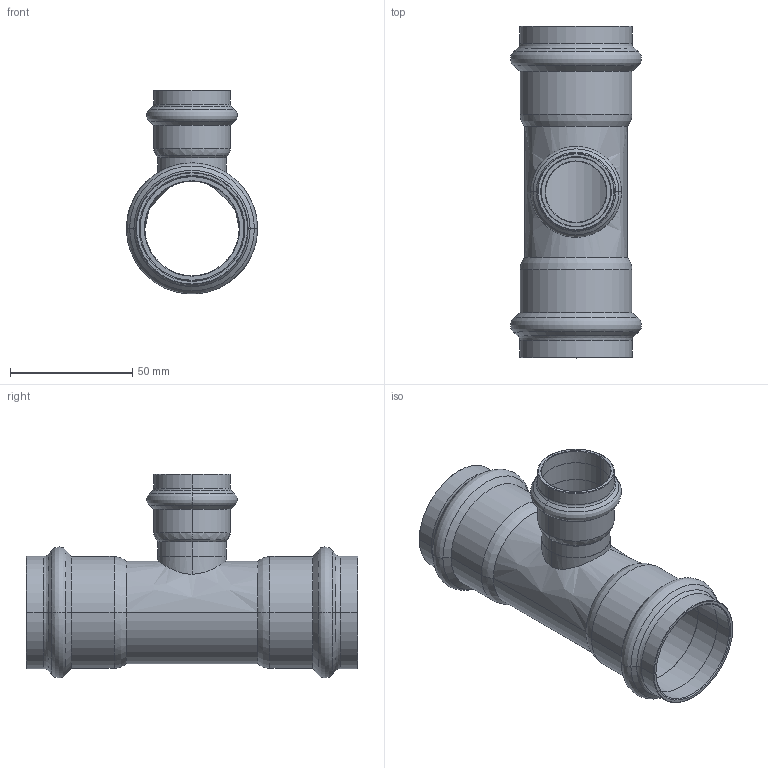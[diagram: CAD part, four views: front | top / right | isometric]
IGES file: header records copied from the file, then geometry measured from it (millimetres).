
Start section: Elysium IGES Interface
Global section: file name: C:\Users\Wallenburg\Desktop\3d modellen sudo\S-Pr VP\SP6130RV\6130RVW422842.igs; native system: CoCreate Modeling 17.00A  17-Jun-2010; preprocessor: CoCreate IGES_3D V2.2; author: Unknown; organization: Unknown; date: 20130117.141633; units: millimetre
Bounding box: 53.61 x 135.73 x 83.4 mm (x, y, z)
Volume: 45490.4 mm3; surface area: 45557.5 mm2
Topology: 1 solids, 1 shells, 128 faces, 270 edges, 146 vertices
Faces by surface type: bspline 128
